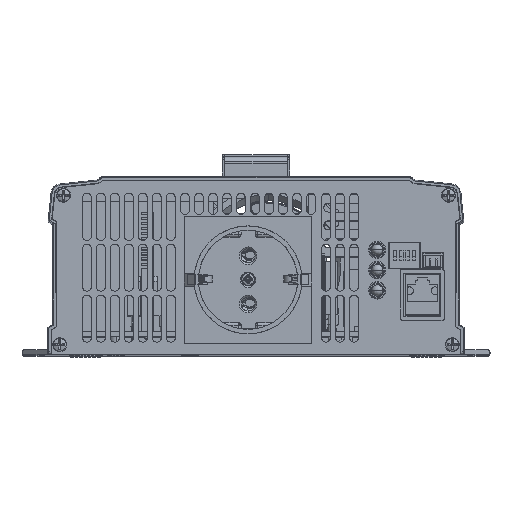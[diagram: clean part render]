
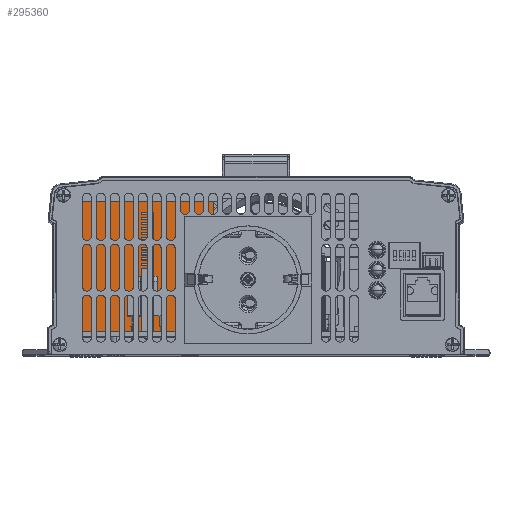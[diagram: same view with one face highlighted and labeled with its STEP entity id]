
A CAD part, top view. The second image highlights one B-rep face of the part: STEP entity #295360.
In plain terms, the highlighted planar face has unit normal (0, 0, 1).
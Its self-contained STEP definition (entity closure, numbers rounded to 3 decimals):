
#294060=CARTESIAN_POINT('',(-134.475,248.641,
-210.998));
#294070=DIRECTION('',(0.,-1.,0.));
#294080=VECTOR('',#294070,1.);
#294090=LINE('',#294060,#294080);
#294100=CARTESIAN_POINT('',(-134.475,248.641,
-210.998));
#294110=VERTEX_POINT('',#294100);
#294120=CARTESIAN_POINT('',(-134.475,197.041,
-210.998));
#294130=VERTEX_POINT('',#294120);
#294140=EDGE_CURVE('',#294110,#294130,#294090,.T.);
#294580=CARTESIAN_POINT('',(-189.475,197.041,
-210.998));
#294590=VERTEX_POINT('',#294580);
#294620=CARTESIAN_POINT('',(-134.475,197.041,
-210.998));
#294630=DIRECTION('',(-1.,0.,0.));
#294640=VECTOR('',#294630,1.);
#294650=LINE('',#294620,#294640);
#294660=EDGE_CURVE('',#294130,#294590,#294650,.T.);
#295010=CARTESIAN_POINT('',(-134.475,248.641,
-210.998));
#295020=DIRECTION('',(-1.,0.,0.));
#295030=VECTOR('',#295020,1.);
#295040=LINE('',#295010,#295030);
#295050=CARTESIAN_POINT('',(-189.475,248.641,
-210.998));
#295060=VERTEX_POINT('',#295050);
#295070=EDGE_CURVE('',#294110,#295060,#295040,.T.);
#295200=CARTESIAN_POINT('',(-189.475,197.941,
-210.998));
#295210=DIRECTION('',(0.,0.,1.));
#295220=DIRECTION('',(1.,0.,0.));
#295230=AXIS2_PLACEMENT_3D('',#295200,#295210,#295220);
#295240=PLANE('',#295230);
#295250=CARTESIAN_POINT('',(-189.475,248.641,
-210.998));
#295260=DIRECTION('',(0.,-1.,0.));
#295270=VECTOR('',#295260,1.);
#295280=LINE('',#295250,#295270);
#295290=EDGE_CURVE('',#295060,#294590,#295280,.T.);
#295300=ORIENTED_EDGE('',*,*,#295290,.T.);
#295310=ORIENTED_EDGE('',*,*,#295070,.T.);
#295320=ORIENTED_EDGE('',*,*,#294140,.F.);
#295330=ORIENTED_EDGE('',*,*,#294660,.F.);
#295340=EDGE_LOOP('',(#295330,#295320,#295310,#295300));
#295350=FACE_OUTER_BOUND('',#295340,.T.);
#295360=ADVANCED_FACE('',(#295350),#295240,.T.);
